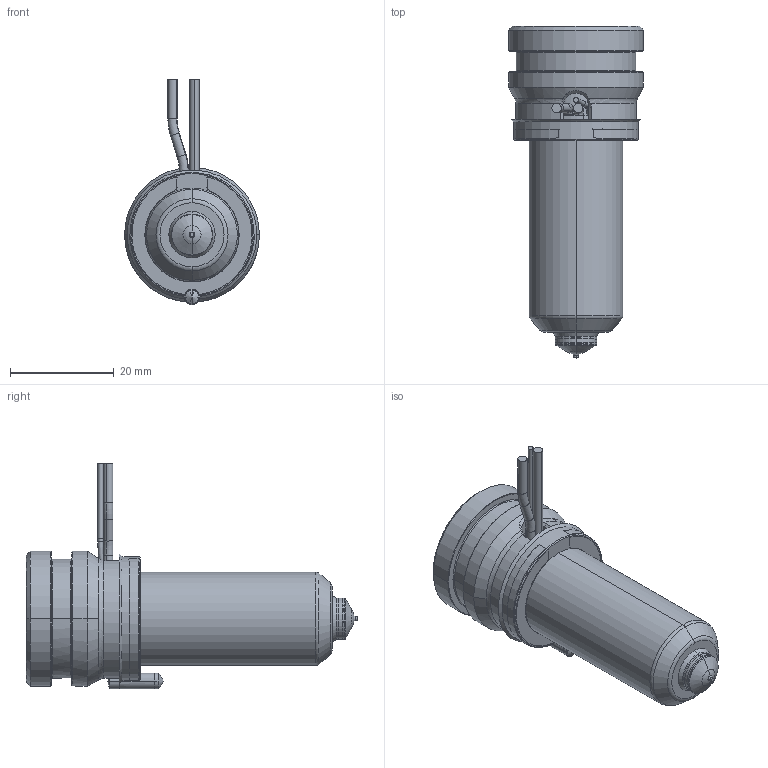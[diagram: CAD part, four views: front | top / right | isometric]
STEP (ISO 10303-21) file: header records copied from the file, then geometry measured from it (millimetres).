
FILE_DESCRIPTION((''),'2;1');
FILE_NAME('MPN-08-24-VSA8-046-A','2026-02-05T12:02:54',('UPTIO'),('Thermoplay S.p.A.'),'CREO PARAMETRIC BY PTC INC, 2023494','CREO PARAMETRIC BY PTC INC, 2023494','');
FILE_SCHEMA(('CONFIG_CONTROL_DESIGN','SHAPE_APPEARANCE_LAYERS_GROUPS'));
Length unit declared in the file: millimetre
Products named in the file (1): MPN-08-24-VSA8-046-A
Bounding box: 26 x 64 x 43.5 mm (x, y, z)
Volume: 14515.5 mm3; surface area: 16692.7 mm2
Topology: 2 solids, 3 shells, 521 faces, 1392 edges, 868 vertices
Faces by surface type: cylinder 182, plane 134, bspline 71, cone 60, torus 58, sphere 10, extrusion 6
Entity records: 28212 total; most frequent: CARTESIAN_POINT 12617, ORIENTED_EDGE 2768, DIRECTION 2493, EDGE_CURVE 1384, AXIS2_PLACEMENT_3D 973, VERTEX_POINT 868, EDGE_LOOP 548, VECTOR 547
